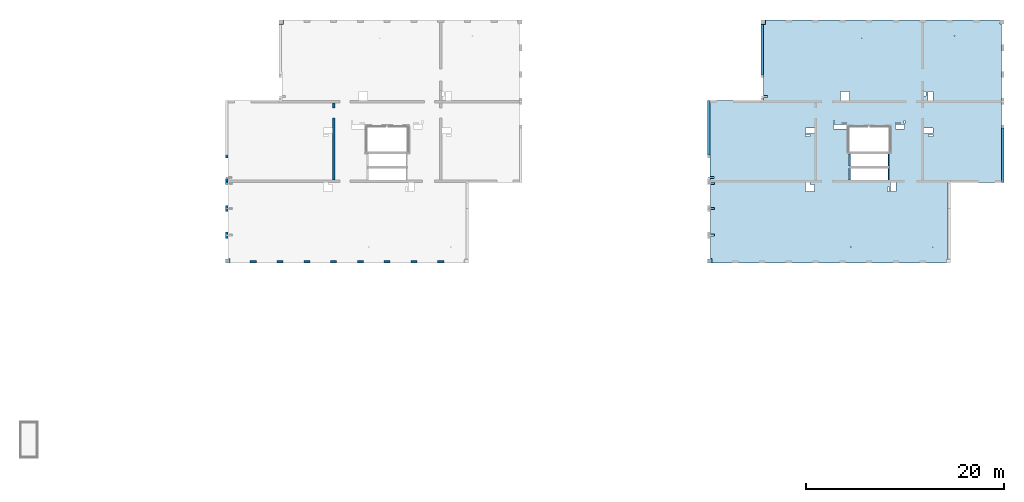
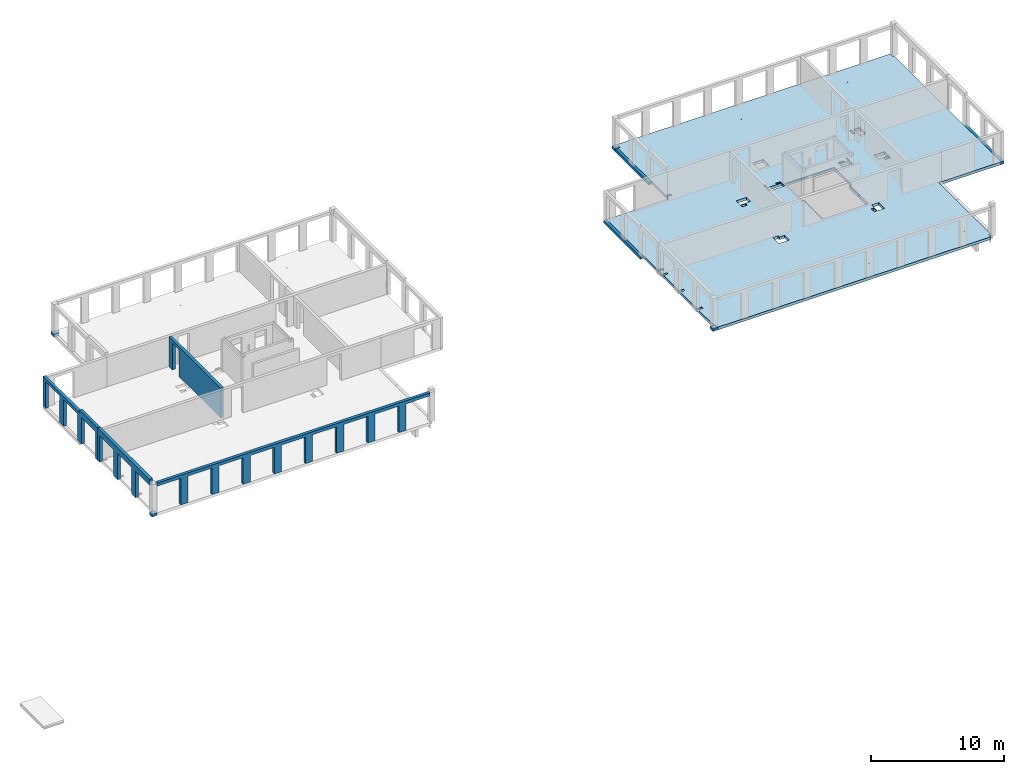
# One storey, part 3 of 12: 8 slabs, 4 walls, 50 openings.
"""IFC2X3 building model written with IfcOpenShell, lengths in millimetres."""

from ifc_helpers import new_model, entity, si_unit, converted_unit, derived_unit, direction, frame, frame_2d, origin, origin_2d_with_axis, place, context, subcontext, project, spatial, polyline, rectangle, circle, outline, extrude, material, layer, layer_set, layer_usage, type_object, element, save


model = new_model("IFC2X3")

# Units and contexts
model_context = context("Model", 3, precision=0.01, world=origin(), true_north=direction((6.12303176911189e-17, 1.0)))
body_context = subcontext(model_context, "Body", "Model", "MODEL_VIEW")
ifc_project = project(units=[si_unit("LENGTHUNIT", "METRE", prefix="MILLI"), si_unit("AREAUNIT", "SQUARE_METRE"), si_unit("VOLUMEUNIT", "CUBIC_METRE"), converted_unit("PLANEANGLEUNIT", "DEGREE", entity("IfcRatioMeasure", 0.0174532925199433), si_unit("PLANEANGLEUNIT", "RADIAN"), dimensions=[0, 0, 0, 0, 0, 0, 0]), si_unit("MASSUNIT", "GRAM", prefix="KILO"), derived_unit("MASSDENSITYUNIT", [(si_unit("MASSUNIT", "GRAM", prefix="KILO"), 1), (si_unit("LENGTHUNIT", "METRE"), -3)]), si_unit("TIMEUNIT", "SECOND"), si_unit("FREQUENCYUNIT", "HERTZ"), si_unit("THERMODYNAMICTEMPERATUREUNIT", "DEGREE_CELSIUS"), derived_unit("THERMALTRANSMITTANCEUNIT", [(si_unit("MASSUNIT", "GRAM", prefix="KILO"), 1), (si_unit("THERMODYNAMICTEMPERATUREUNIT", "KELVIN"), -1), (si_unit("TIMEUNIT", "SECOND"), -3)]), derived_unit("VOLUMETRICFLOWRATEUNIT", [(si_unit("LENGTHUNIT", "METRE"), 3), (si_unit("TIMEUNIT", "SECOND"), -1)]), si_unit("ELECTRICCURRENTUNIT", "AMPERE"), si_unit("ELECTRICVOLTAGEUNIT", "VOLT"), si_unit("POWERUNIT", "WATT"), si_unit("FORCEUNIT", "NEWTON", prefix="KILO"), si_unit("ILLUMINANCEUNIT", "LUX"), si_unit("LUMINOUSFLUXUNIT", "LUMEN"), si_unit("LUMINOUSINTENSITYUNIT", "CANDELA"), derived_unit("USERDEFINED", [(si_unit("MASSUNIT", "GRAM", prefix="KILO"), -1), (si_unit("LENGTHUNIT", "METRE"), -2), (si_unit("TIMEUNIT", "SECOND"), 3), (si_unit("LUMINOUSFLUXUNIT", "LUMEN"), 1)]), derived_unit("LINEARVELOCITYUNIT", [(si_unit("LENGTHUNIT", "METRE"), 1), (si_unit("TIMEUNIT", "SECOND"), -1)]), si_unit("PRESSUREUNIT", "PASCAL"), derived_unit("USERDEFINED", [(si_unit("LENGTHUNIT", "METRE"), -2), (si_unit("MASSUNIT", "GRAM", prefix="KILO"), 1), (si_unit("TIMEUNIT", "SECOND"), -2)])], contexts=[model_context])

# Site, building, storey
site_placement = place(None, origin())
site = spatial("IfcSite", under=ifc_project, at=site_placement, Name="Default", CompositionType="ELEMENT")
building_placement = place(site_placement, origin())
building = spatial("IfcBuilding", under=site, at=building_placement, Name="niet gebruiken", CompositionType="ELEMENT")
storey_placement = place(building_placement, frame((0.0, 0.0, 21510.0)))
storey = spatial("IfcBuildingStorey", under=building, at=storey_placement, Name="07 zevende verdieping", CompositionType="ELEMENT", Elevation=21510.0)

# Slab, openings
ifc_material_1 = material(Name="NLRS_f2_beton ihwg")
ifc_layer_1 = layer(ifc_material_1, 250.0)
ifc_layer_set_1 = layer_set([ifc_layer_1], Name="Floor:NLRS_23.21_FL_beton ihwg d=250_gen")
ifc_layer_usage_1 = layer_usage(ifc_layer_set_1, "AXIS3", "POSITIVE", 0.0)
slab_1_placement = place(storey_placement, frame((75500.0, 28756.0, -340.0)))
slab_1 = element("IfcSlab", 1, at=slab_1_placement, inside=storey, material=ifc_layer_usage_1, Name="Floor:NLRS_23.21_FL_beton ihwg d=250_gen", ObjectType="Floor:NLRS_23.21_FL_beton ihwg d=250_gen", PredefinedType="FLOOR", context=body_context, shape_type="SweptSolid", body=[
    extrude(outline(polyline([(8994.99996701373, 12250.0), (-14665.0, 12250.0), (-14665.0, 11840.0), (-14805.0, 11840.0), (-14805.0, 4060.0), (-14825.0, 4060.0), (-14825.0, -4150.0), (-9425.0, -4150.0), (-9425.0, -11890.0), (-9265.00003298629, -11890.0), (-9265.00003298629, -12250.0), (14395.0, -12250.0), (14395.0, -11820.0), (14535.0, -11820.0), (14535.0, -4060.0), (14555.0, -4060.0), (14555.0, -1350.0), (14825.0, -1350.0), (14825.0, 4150.0), (9155.0, 4150.0), (9155.0, 7060.0), (9175.0, 7060.0), (9175.0, 11820.0), (8994.99996701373, 11820.0), (8994.99996701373, 12250.0)])), frame((14825.0, 12250.0, 250.0), z_axis=(0.0, 0.0, -1.0), x_axis=(-1.0, 0.0, 0.0)), (0.0, 0.0, 1.0), 249.999999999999),
])
opening_1_placement = place(storey_placement, frame((75500.0, 28756.0, -340.0)))
element("IfcOpeningElement", 2, at=opening_1_placement, cuts=slab_1, ObjectType="Opening", context=body_context, shape_type="SweptSolid", body=[
    extrude(circle(Radius=37.5, at=frame_2d((-7875.0, -10650.0), x_axis=(1.0, 0.0))), frame((14825.0, 12250.0, 250.0), z_axis=(0.0, 0.0, -1.0), x_axis=(-1.0, 0.0, 0.0)), (0.0, 0.0, 1.0), 249.999999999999),
])
opening_2_placement = place(storey_placement, frame((75500.0, 28756.0, -340.0)))
element("IfcOpeningElement", 3, at=opening_2_placement, cuts=slab_1, ObjectType="Opening", context=body_context, shape_type="SweptSolid", body=[
    extrude(circle(Radius=37.5, at=frame_2d((-10075.0, 10650.0), x_axis=(1.0, 0.0))), frame((14825.0, 12250.0, 250.0), z_axis=(0.0, 0.0, -1.0), x_axis=(-1.0, 0.0, 0.0)), (0.0, 0.0, 1.0), 249.999999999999),
])
opening_3_placement = place(storey_placement, frame((75500.0, 28756.0, -340.0)))
element("IfcOpeningElement", 4, at=opening_3_placement, cuts=slab_1, ObjectType="Opening", context=body_context, shape_type="SweptSolid", body=[
    extrude(circle(Radius=37.5, at=frame_2d((-725.0, 10400.0), x_axis=(1.0, 0.0))), frame((14825.0, 12250.0, 250.0), z_axis=(0.0, 0.0, -1.0), x_axis=(-1.0, 0.0, 0.0)), (0.0, 0.0, 1.0), 249.999999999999),
])
opening_4_placement = place(storey_placement, frame((75500.0, 28756.0, -340.0)))
element("IfcOpeningElement", 5, at=opening_4_placement, cuts=slab_1, ObjectType="Opening", context=body_context, shape_type="SweptSolid", body=[
    extrude(circle(Radius=37.5, at=frame_2d((375.0, -10650.0), x_axis=(1.0, 0.0))), frame((14825.0, 12250.0, 250.0), z_axis=(0.0, 0.0, -1.0), x_axis=(-1.0, 0.0, 0.0)), (0.0, 0.0, 1.0), 249.999999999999),
])
opening_5_placement = place(slab_1_placement, origin())
element("IfcOpeningElement", 6, at=opening_5_placement, cuts=slab_1, ObjectType="Opening", context=body_context, shape_type="SweptSolid", body=[
    extrude(rectangle(XDim=109.999999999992, YDim=1220.0, at=origin_2d_with_axis()), frame((14344.9999671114, 10380.0, 210.0)), (0.0, 0.0, 1.0), 39.9999999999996),
])
opening_6_placement = place(slab_1_placement, origin())
element("IfcOpeningElement", 7, at=opening_6_placement, cuts=slab_1, ObjectType="Opening", context=body_context, shape_type="SweptSolid", body=[
    extrude(rectangle(XDim=109.999999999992, YDim=1220.0, at=origin_2d_with_axis()), frame((18255.0, 10380.0, 210.0)), (0.0, 0.0, 1.0), 39.9999999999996),
])
opening_7_placement = place(slab_1_placement, origin())
element("IfcOpeningElement", 8, at=opening_7_placement, cuts=slab_1, ObjectType="Opening", context=body_context, shape_type="SweptSolid", body=[
    extrude(rectangle(XDim=109.999999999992, YDim=1220.0, at=origin_2d_with_axis()), frame((18255.0, 8960.0, 210.0)), (0.0, 0.0, 1.0), 39.9999999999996),
])
opening_8_placement = place(slab_1_placement, origin())
element("IfcOpeningElement", 9, at=opening_8_placement, cuts=slab_1, ObjectType="Opening", context=body_context, shape_type="SweptSolid", body=[
    extrude(rectangle(XDim=109.999999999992, YDim=1220.0, at=origin_2d_with_axis()), frame((14344.9997832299, 8960.0, 210.0)), (0.0, 0.0, 1.0), 39.9999999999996),
])
opening_9_placement = place(slab_1_placement, origin())
element("IfcOpeningElement", 10, at=opening_9_placement, cuts=slab_1, ObjectType="Opening", context=body_context, shape_type="SweptSolid", body=[
    extrude(rectangle(XDim=200.000000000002, YDim=400.000000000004, at=origin_2d_with_axis()), frame((490.0, 2800.0, 220.0), z_axis=(0.0, 0.0, 1.0), x_axis=(0.0, -1.0, 0.0)), (0.0, 0.0, 1.0), 30.0000000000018),
])
opening_10_placement = place(slab_1_placement, origin())
element("IfcOpeningElement", 11, at=opening_10_placement, cuts=slab_1, ObjectType="Opening", context=body_context, shape_type="SweptSolid", body=[
    extrude(rectangle(XDim=200.000000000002, YDim=400.000000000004, at=origin_2d_with_axis()), frame((490.0, 5500.0, 220.0), z_axis=(0.0, 0.0, 1.0), x_axis=(0.0, -1.0, 0.0)), (0.0, 0.0, 1.0), 30.0000000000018),
])
opening_11_placement = place(slab_1_placement, origin())
element("IfcOpeningElement", 12, at=opening_11_placement, cuts=slab_1, ObjectType="Opening", context=body_context, shape_type="SweptSolid", body=[
    extrude(rectangle(XDim=200.000000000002, YDim=400.000000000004, at=origin_2d_with_axis()), frame((490.0, 8000.0, 220.0), z_axis=(0.0, 0.0, 1.0), x_axis=(0.0, -1.0, 0.0)), (0.0, 0.0, 1.0), 30.0000000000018),
])
opening_12_placement = place(slab_1_placement, origin())
element("IfcOpeningElement", 13, at=opening_12_placement, cuts=slab_1, ObjectType="Opening", context=body_context, shape_type="SweptSolid", body=[
    extrude(rectangle(XDim=400.000000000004, YDim=200.000000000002, at=origin_2d_with_axis()), frame((470.0, 8630.0, 220.0)), (0.0, 0.0, 1.0), 30.0000000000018),
])
opening_13_placement = place(slab_1_placement, origin())
element("IfcOpeningElement", 14, at=opening_13_placement, cuts=slab_1, ObjectType="Opening", context=body_context, shape_type="SweptSolid", body=[
    extrude(rectangle(XDim=399.999999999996, YDim=199.999999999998, at=origin_2d_with_axis()), frame((5870.0, 16765.0, 220.0)), (0.0, 0.0, 1.0), 30.0000000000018),
])
opening_14_placement = place(slab_1_placement, origin())
element("IfcOpeningElement", 15, at=opening_14_placement, cuts=slab_1, ObjectType="Opening", context=body_context, shape_type="SweptSolid", body=[
    extrude(rectangle(XDim=900.000000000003, YDim=700.000000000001, at=origin_2d_with_axis()), frame((10325.0, 7550.0, 0.0), z_axis=(0.0, 0.0, 1.0), x_axis=(-1.0, 0.0, 0.0)), (0.0, 0.0, 1.0), 249.999999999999),
])
opening_15_placement = place(slab_1_placement, origin())
element("IfcOpeningElement", 16, at=opening_15_placement, cuts=slab_1, ObjectType="Opening", context=body_context, shape_type="SweptSolid", body=[
    extrude(rectangle(XDim=200.000000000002, YDim=450.000000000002, at=origin_2d_with_axis()), frame((10100.0, 8000.0, 0.0), z_axis=(0.0, 0.0, 1.0), x_axis=(0.0, -1.0, 0.0)), (0.0, 0.0, 1.0), 249.999999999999),
])
opening_16_placement = place(slab_1_placement, origin())
element("IfcOpeningElement", 17, at=opening_16_placement, cuts=slab_1, ObjectType="Opening", context=body_context, shape_type="SweptSolid", body=[
    extrude(rectangle(XDim=450.000000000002, YDim=900.000000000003, at=origin_2d_with_axis()), frame((19430.0, 13720.0, 0.0), z_axis=(0.0, 0.0, 1.0), x_axis=(0.0, -1.0, 0.0)), (0.0, 0.0, 1.0), 249.999999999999),
])
opening_17_placement = place(slab_1_placement, origin())
element("IfcOpeningElement", 18, at=opening_17_placement, cuts=slab_1, ObjectType="Opening", context=body_context, shape_type="SweptSolid", body=[
    extrude(rectangle(XDim=900.000000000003, YDim=900.000000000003, at=origin_2d_with_axis()), frame((13885.0, 16850.0, 0.0), z_axis=(0.0, 0.0, 1.0), x_axis=(-1.0, 0.0, 0.0)), (0.0, 0.0, 1.0), 249.999999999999),
])
opening_18_placement = place(slab_1_placement, origin())
element("IfcOpeningElement", 19, at=opening_18_placement, cuts=slab_1, ObjectType="Opening", context=body_context, shape_type="SweptSolid", body=[
    extrude(rectangle(XDim=900.000000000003, YDim=600.000000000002, at=origin_2d_with_axis()), frame((10325.0, 13330.0, 0.0), z_axis=(0.0, 0.0, 1.0), x_axis=(-1.0, 0.0, 0.0)), (0.0, 0.0, 1.0), 249.999999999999),
])
opening_19_placement = place(slab_1_placement, origin())
element("IfcOpeningElement", 20, at=opening_19_placement, cuts=slab_1, ObjectType="Opening", context=body_context, shape_type="SweptSolid", body=[
    extrude(rectangle(XDim=900.000000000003, YDim=500.000000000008, at=origin_2d_with_axis()), frame((22475.0, 16850.0, 0.0), z_axis=(0.0, 0.0, 1.0), x_axis=(0.0, 1.0, 0.0)), (0.0, 0.0, 1.0), 249.999999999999),
])
opening_20_placement = place(slab_1_placement, origin())
element("IfcOpeningElement", 21, at=opening_20_placement, cuts=slab_1, ObjectType="Opening", context=body_context, shape_type="SweptSolid", body=[
    extrude(rectangle(XDim=899.999999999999, YDim=600.000000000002, at=origin_2d_with_axis()), frame((18729.9818996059, 7650.0, 0.0), z_axis=(0.0, 0.0, 1.0), x_axis=(0.0, 1.0, 0.0)), (0.0, 0.0, 1.0), 249.999999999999),
])
opening_21_placement = place(slab_1_placement, origin())
element("IfcOpeningElement", 22, at=opening_21_placement, cuts=slab_1, ObjectType="Opening", context=body_context, shape_type="SweptSolid", body=[
    extrude(rectangle(XDim=1760.0, YDim=23.0000000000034, at=origin_2d_with_axis()), frame((17354.9998491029, 13751.5, 180.0)), (0.0, 0.0, 1.0), 39.9999999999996),
])
opening_22_placement = place(slab_1_placement, origin())
element("IfcOpeningElement", 23, at=opening_22_placement, cuts=slab_1, ObjectType="Opening", context=body_context, shape_type="SweptSolid", body=[
    extrude(rectangle(XDim=1760.00000000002, YDim=23.0000000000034, at=origin_2d_with_axis()), frame((15244.9998491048, 13751.5, 180.0)), (0.0, 0.0, 1.0), 39.9999999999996),
])
opening_23_placement = place(slab_1_placement, origin())
element("IfcOpeningElement", 24, at=opening_23_placement, cuts=slab_1, ObjectType="Opening", context=body_context, shape_type="SweptSolid", body=[
    extrude(rectangle(XDim=100.000000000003, YDim=489.999999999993, at=origin_2d_with_axis()), frame((19225.0, 14090.0, 0.0), z_axis=(0.0, 0.0, 1.0), x_axis=(0.0, -1.0, 0.0)), (0.0, 0.0, 1.0), 249.999999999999),
])
opening_24_placement = place(slab_1_placement, origin())
element("IfcOpeningElement", 25, at=opening_24_placement, cuts=slab_1, ObjectType="Opening", context=body_context, shape_type="SweptSolid", body=[
    extrude(rectangle(XDim=99.9999999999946, YDim=340.000000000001, at=origin_2d_with_axis()), frame((19865.0, 14210.0, 0.0), z_axis=(0.0, 0.0, 1.0), x_axis=(-1.0, 0.0, 0.0)), (0.0, 0.0, 1.0), 249.999999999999),
])
opening_25_placement = place(slab_1_placement, origin())
element("IfcOpeningElement", 26, at=opening_25_placement, cuts=slab_1, ObjectType="Opening", context=body_context, shape_type="SweptSolid", body=[
    extrude(rectangle(XDim=100.000000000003, YDim=440.000000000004, at=origin_2d_with_axis()), frame((13805.0, 14090.0, 0.0), z_axis=(0.0, 0.0, 1.0), x_axis=(0.0, -1.0, 0.0)), (0.0, 0.0, 1.0), 249.999999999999),
])
opening_26_placement = place(slab_1_placement, origin())
element("IfcOpeningElement", 27, at=opening_26_placement, cuts=slab_1, ObjectType="Opening", context=body_context, shape_type="SweptSolid", body=[
    extrude(rectangle(XDim=99.9999999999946, YDim=340.000000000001, at=origin_2d_with_axis()), frame((12755.0, 14210.0, 0.0), z_axis=(0.0, 0.0, 1.0), x_axis=(-1.0, 0.0, 0.0)), (0.0, 0.0, 1.0), 249.999999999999),
])
opening_27_placement = place(slab_1_placement, origin())
element("IfcOpeningElement", 28, at=opening_27_placement, cuts=slab_1, ObjectType="Opening", context=body_context, shape_type="SweptSolid", body=[
    extrude(rectangle(XDim=220.000000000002, YDim=450.000000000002, at=origin_2d_with_axis()), frame((21935.0, 17075.0, 0.0), z_axis=(0.0, 0.0, 1.0), x_axis=(-1.0, 0.0, 0.0)), (0.0, 0.0, 1.0), 249.999999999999),
])
opening_28_placement = place(slab_1_placement, origin())
element("IfcOpeningElement", 29, at=opening_28_placement, cuts=slab_1, ObjectType="Opening", context=body_context, shape_type="SweptSolid", body=[
    extrude(rectangle(XDim=230.0, YDim=450.000000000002, at=origin_2d_with_axis()), frame((10100.0000865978, 12845.0002270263, 0.0), z_axis=(0.0, 0.0, 1.0), x_axis=(0.0, -1.0, 0.0)), (0.0, 0.0, 1.0), 249.999999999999),
])
opening_29_placement = place(slab_1_placement, origin())
element("IfcOpeningElement", 30, at=opening_29_placement, cuts=slab_1, ObjectType="Opening", context=body_context, shape_type="SweptSolid", body=[
    extrude(rectangle(XDim=220.000000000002, YDim=450.000000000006, at=origin_2d_with_axis()), frame((18240.0, 7425.0, 0.0)), (0.0, 0.0, 1.0), 249.999999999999),
])
opening_30_placement = place(slab_1_placement, origin())
element("IfcOpeningElement", 31, at=opening_30_placement, cuts=slab_1, ObjectType="Opening", context=body_context, shape_type="SweptSolid", body=[
    extrude(rectangle(XDim=440.000000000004, YDim=1320.00000000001, at=origin_2d_with_axis()), frame((13365.0, 13720.0, 0.0), z_axis=(0.0, 0.0, 1.0), x_axis=(0.0, -1.0, 0.0)), (0.0, 0.0, 1.0), 249.999999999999),
])
opening_31_placement = place(slab_1_placement, origin())
element("IfcOpeningElement", 32, at=opening_31_placement, cuts=slab_1, ObjectType="Opening", context=body_context, shape_type="SweptSolid", body=[
    extrude(rectangle(XDim=900.000000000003, YDim=600.000000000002, at=origin_2d_with_axis()), frame((22275.0, 13330.0, 0.0), z_axis=(0.0, 0.0, 1.0), x_axis=(-1.0, 0.0, 0.0)), (0.0, 0.0, 1.0), 249.999999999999),
])
opening_32_placement = place(slab_1_placement, origin())
element("IfcOpeningElement", 33, at=opening_32_placement, cuts=slab_1, ObjectType="Opening", context=body_context, shape_type="SweptSolid", body=[
    extrude(rectangle(XDim=220.000000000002, YDim=450.000000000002, at=origin_2d_with_axis()), frame((22500.0, 12840.0, 0.0), z_axis=(0.0, 0.0, 1.0), x_axis=(0.0, -1.0, 0.0)), (0.0, 0.0, 1.0), 249.999999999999),
])
opening_33_placement = place(slab_1_placement, frame((16300.0, 10378.75, 250.0)))
element("IfcOpeningElement", 34, at=opening_33_placement, cuts=slab_1, Name="Floor:NLRS_23.21_FL_beton ihwg d=250_gen:2", ObjectType="Opening", context=body_context, shape_type="SweptSolid", body=[
    extrude(outline(polyline([(-3361.25000000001, -2135.00001644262), (-751.250000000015, -2135.00001644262), (-751.250000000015, -1899.99998355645), (608.750000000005, -1899.99998355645), (608.750000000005, -2000.00001644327), (808.750000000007, -2000.00001644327), (808.750000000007, -1899.99998355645), (2028.75, -1899.99998355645), (2028.75, 1900.00001644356), (808.749999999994, 1900.00001644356), (808.749999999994, 1999.99998355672), (608.749999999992, 1999.99998355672), (608.749999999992, 1900.00001644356), (-751.250000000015, 1900.00001644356), (-751.250000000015, 2134.99998355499), (-3361.25000000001, 2134.99998355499), (-3361.25000000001, -2135.00001644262)])), frame((0.0, 0.0, 0.0), z_axis=(0.0, 0.0, -1.0), x_axis=(0.0, -1.0, 0.0)), (0.0, 0.0, 1.0), 249.999999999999),
])

# Slabs
ifc_layer_usage_2 = layer_usage(ifc_layer_set_1, "AXIS3", "POSITIVE", 0.0)
slab_2_placement = place(storey_placement, origin())
element("IfcSlab", 35, at=slab_2_placement, inside=storey, material=ifc_layer_usage_2, Name="Floor:NLRS_23.21_FL_beton ihwg d=250_gen", ObjectType="Floor:NLRS_23.21_FL_beton ihwg d=250_gen", PredefinedType="FLOOR", context=body_context, shape_type="SweptSolid", body=[
    extrude(rectangle(XDim=5089.99999999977, YDim=249.999999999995, at=frame_2d((-4.32009983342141e-12, -8.66151594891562e-12), x_axis=(1.0, 0.0))), frame((81025.0, 50301.0, -90.0), z_axis=(0.0, 0.0, -1.0), x_axis=(0.0, 1.0, 0.0)), (0.0, 0.0, 1.0), 249.999999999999),
])
ifc_layer_usage_3 = layer_usage(ifc_layer_set_1, "AXIS3", "POSITIVE", 0.0)
slab_3_placement = place(storey_placement, origin())
element("IfcSlab", 36, at=slab_3_placement, inside=storey, material=ifc_layer_usage_3, Name="Floor:NLRS_23.21_FL_beton ihwg d=250_gen", ObjectType="Floor:NLRS_23.21_FL_beton ihwg d=250_gen", PredefinedType="FLOOR", context=body_context, shape_type="SweptSolid", body=[
    extrude(rectangle(XDim=5499.99999999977, YDim=250.000000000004, at=frame_2d((0.0, 4.33431068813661e-12), x_axis=(1.0, 0.0))), frame((75625.0, 42406.0, -90.0), z_axis=(0.0, 0.0, -1.0), x_axis=(0.0, 1.0, 0.0)), (0.0, 0.0, 1.0), 249.999999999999),
])
ifc_layer_usage_4 = layer_usage(ifc_layer_set_1, "AXIS3", "POSITIVE", 0.0)
slab_4_placement = place(storey_placement, origin())
element("IfcSlab", 37, at=slab_4_placement, inside=storey, material=ifc_layer_usage_4, Name="Floor:NLRS_23.21_FL_beton ihwg d=250_gen", ObjectType="Floor:NLRS_23.21_FL_beton ihwg d=250_gen", PredefinedType="FLOOR", context=body_context, shape_type="SweptSolid", body=[
    extrude(rectangle(XDim=5500.00000000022, YDim=249.999999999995, at=frame_2d((0.0, -8.66151594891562e-12), x_axis=(1.0, 0.0))), frame((105275.0, 39606.0, -90.0), z_axis=(0.0, 0.0, -1.0), x_axis=(0.0, 1.0, 0.0)), (0.0, 0.0, 1.0), 249.999999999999),
])
ifc_layer_usage_5 = layer_usage(ifc_layer_set_1, "AXIS3", "POSITIVE", 0.0)
slab_5_placement = place(storey_placement, origin())
element("IfcSlab", 38, at=slab_5_placement, inside=storey, material=ifc_layer_usage_5, Name="Floor:NLRS_23.21_FL_beton ihwg d=250_gen", ObjectType="Floor:NLRS_23.21_FL_beton ihwg d=250_gen", PredefinedType="FLOOR", context=body_context, shape_type="SweptSolid", body=[
    extrude(outline(polyline([(-280.0, -240.0), (130.0, -240.0), (130.0, 50.0), (150.0, 50.0), (150.0, 190.0), (-280.0, 190.0), (-280.0, -240.0)])), frame((75740.0, 29036.0, -90.0), z_axis=(0.0, 0.0, -1.0), x_axis=(0.0, 1.0, 0.0)), (0.0, 0.0, 1.0), 249.999999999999),
])
ifc_layer_usage_6 = layer_usage(ifc_layer_set_1, "AXIS3", "POSITIVE", 0.0)
slab_6_placement = place(storey_placement, origin())
element("IfcSlab", 39, at=slab_6_placement, inside=storey, material=ifc_layer_usage_6, Name="Floor:NLRS_23.21_FL_beton ihwg d=250_gen", ObjectType="Floor:NLRS_23.21_FL_beton ihwg d=250_gen", PredefinedType="FLOOR", context=body_context, shape_type="SweptSolid", body=[
    extrude(outline(polyline([(-280.0, -240.0), (130.0, -240.0), (130.0, 50.0), (150.0, 50.0), (150.0, 190.0), (-280.0, 190.0), (-280.0, -240.0)])), frame((27140.0, 29036.0, -90.0), z_axis=(0.0, 0.0, -1.0), x_axis=(0.0, 1.0, 0.0)), (0.0, 0.0, 1.0), 249.999999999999),
])
ifc_layer_usage_7 = layer_usage(ifc_layer_set_1, "AXIS3", "POSITIVE", 0.0)
slab_7_placement = place(storey_placement, origin())
element("IfcSlab", 40, at=slab_7_placement, inside=storey, material=ifc_layer_usage_7, Name="Floor:NLRS_23.21_FL_beton ihwg d=250_gen", ObjectType="Floor:NLRS_23.21_FL_beton ihwg d=250_gen", PredefinedType="FLOOR", context=body_context, shape_type="SweptSolid", body=[
    extrude(rectangle(XDim=430.000000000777, YDim=430.000032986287, at=frame_2d((4.33431068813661e-12, 0.0), x_axis=(1.0, 0.0))), frame((81115.0, 53041.0, -90.0), z_axis=(0.0, 0.0, -1.0), x_axis=(0.0, 1.0, 0.0)), (0.0, 0.0, 1.0), 249.999999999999),
])
ifc_layer_usage_8 = layer_usage(ifc_layer_set_1, "AXIS3", "POSITIVE", 0.0)
slab_8_placement = place(storey_placement, origin())
element("IfcSlab", 41, at=slab_8_placement, inside=storey, material=ifc_layer_usage_8, Name="Floor:NLRS_23.21_FL_beton ihwg d=250_gen", ObjectType="Floor:NLRS_23.21_FL_beton ihwg d=250_gen", PredefinedType="FLOOR", context=body_context, shape_type="SweptSolid", body=[
    extrude(rectangle(XDim=430.000000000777, YDim=430.000032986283, at=frame_2d((-4.33431068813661e-12, 2.1600499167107e-12), x_axis=(1.0, 0.0))), frame((32515.0, 53041.0, -90.0), z_axis=(0.0, 0.0, -1.0), x_axis=(0.0, 1.0, 0.0)), (0.0, 0.0, 1.0), 249.999999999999),
])

# Wall, opening
ifc_layer_2 = layer(ifc_material_1, 250.0)
ifc_layer_set_2 = layer_set([ifc_layer_2], Name="Basic Wall:NLRS_22.21_WA_beton ihwg d=250_gen")
ifc_layer_usage_9 = layer_usage(ifc_layer_set_2, "AXIS2", "NEGATIVE", 125.0)
wall_type_1 = type_object("IfcWallType", Name="Basic Wall:NLRS_22.21_WA_beton ihwg d=250_gen", PredefinedType="STANDARD", material=ifc_layer_set_2)
wall_1_placement = place(storey_placement, frame((37800.0, 44906.0, -90.0), z_axis=(0.0, 0.0, 1.0), x_axis=(0.0, -1.0, 0.0)))
wall_1 = element("IfcWallStandardCase", 42, at=wall_1_placement, inside=storey, type_object=wall_type_1, material=ifc_layer_usage_9, Name="Basic Wall:NLRS_22.21_WA_beton ihwg d=250_gen", ObjectType="Basic Wall:NLRS_22.21_WA_beton ihwg d=250_gen", context=body_context, shape_type="SweptSolid", body=[
    extrude(rectangle(XDim=7799.99999999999, YDim=250.000000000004, at=frame_2d((3900.0, 0.0), x_axis=(-1.0, 0.0))), origin(), (0.0, 0.0, 1.0), 2719.99999999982),
])
opening_34_placement = place(wall_1_placement, origin())
element("IfcOpeningElement", 43, at=opening_34_placement, cuts=wall_1, Name="Basic Wall:NLRS_22.21_WA_beton ihwg d=250_gen", ObjectType="Opening", context=body_context, shape_type="SweptSolid", body=[
    extrude(rectangle(XDim=2470.0, YDim=1006.0, at=origin_2d_with_axis()), frame((1027.0, -1649.0, 1235.0), z_axis=(0.0, 1.0, 0.0), x_axis=(0.0, 0.0, 1.0)), (0.0, 0.0, 1.0), 3048.0),
])

# Wall, openings
ifc_material_2 = material(Name="NLRS_f2_beton prefab")
ifc_layer_3 = layer(ifc_material_2, 250.0)
ifc_layer_set_3 = layer_set([ifc_layer_3], Name="Basic Wall:NLRS_21.21_WA_beton prefab d=250_gen")
ifc_layer_usage_10 = layer_usage(ifc_layer_set_3, "AXIS2", "NEGATIVE", 125.0)
wall_type_2 = type_object("IfcWallType", Name="Basic Wall:NLRS_21.21_WA_beton prefab d=250_gen", PredefinedType="STANDARD", material=ifc_layer_set_3)
wall_2_placement = place(storey_placement, frame((27025.0, 45156.0, -70.0), z_axis=(0.0, 0.0, 1.0), x_axis=(0.0, -1.0, 0.0)))
wall_2 = element("IfcWallStandardCase", 44, at=wall_2_placement, inside=storey, type_object=wall_type_2, material=ifc_layer_usage_10, Name="Basic Wall:NLRS_21.21_WA_beton prefab d=250_gen", ObjectType="Basic Wall:NLRS_21.21_WA_beton prefab d=250_gen", context=body_context, shape_type="SweptSolid", body=[
    extrude(rectangle(XDim=8189.99999999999, YDim=250.000000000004, at=frame_2d((4095.0, 0.0), x_axis=(-1.0, 0.0))), origin(), (0.0, 0.0, 1.0), 2949.99999999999),
])
opening_35_placement = place(wall_2_placement, origin())
element("IfcOpeningElement", 45, at=opening_35_placement, cuts=wall_2, Name="Basic Wall:NLRS_21.21_WA_beton prefab d=250_gen", ObjectType="Opening", context=body_context, shape_type="SweptSolid", body=[
    extrude(rectangle(XDim=2420.0, YDim=2080.0, at=frame_2d((0.0, 2.1600499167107e-12), x_axis=(0.0, 1.0))), frame((1450.0, -1399.0, 1210.0), z_axis=(0.0, 1.0, 0.0), x_axis=(-1.0, 0.0, 0.0)), (0.0, 0.0, 1.0), 3048.0),
])
opening_36_placement = place(wall_2_placement, origin())
element("IfcOpeningElement", 46, at=opening_36_placement, cuts=wall_2, Name="Basic Wall:NLRS_21.21_WA_beton prefab d=250_gen", ObjectType="Opening", context=body_context, shape_type="SweptSolid", body=[
    extrude(rectangle(XDim=2420.0, YDim=2080.0, at=frame_2d((0.0, 2.1600499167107e-12), x_axis=(0.0, 1.0))), frame((4150.0, -1399.0, 1210.0), z_axis=(0.0, 1.0, 0.0), x_axis=(-1.0, 0.0, 0.0)), (0.0, 0.0, 1.0), 3048.0),
])
opening_37_placement = place(wall_2_placement, origin())
element("IfcOpeningElement", 47, at=opening_37_placement, cuts=wall_2, Name="Basic Wall:NLRS_21.21_WA_beton prefab d=250_gen", ObjectType="Opening", context=body_context, shape_type="SweptSolid", body=[
    extrude(rectangle(XDim=2420.0, YDim=2080.0, at=frame_2d((0.0, 2.1600499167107e-12), x_axis=(0.0, 1.0))), frame((6850.0, -1399.0, 1210.0), z_axis=(0.0, 1.0, 0.0), x_axis=(-1.0, 0.0, 0.0)), (0.0, 0.0, 1.0), 3048.0),
])
opening_38_placement = place(wall_2_placement, origin())
element("IfcOpeningElement", 48, at=opening_38_placement, cuts=wall_2, Name="Basic Wall:NLRS_21.21_WA_beton prefab d=250_gen", ObjectType="Opening", context=body_context, shape_type="SweptSolid", body=[
    extrude(rectangle(XDim=250.000000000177, YDim=5499.99999999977, at=frame_2d((0.0, 0.0), x_axis=(0.0, 1.0))), frame((2750.0, 125.0, 2825.0), z_axis=(0.0, -1.0, 0.0), x_axis=(-1.0, 0.0, 0.0)), (0.0, 0.0, 1.0), 250.0),
])

ifc_layer_4 = layer(ifc_material_1, 250.0)
ifc_layer_set_4 = layer_set([ifc_layer_4], Name="Basic Wall:NLRS_21.21_WA_beton ihwg d=250_gen")
ifc_layer_usage_11 = layer_usage(ifc_layer_set_4, "AXIS2", "NEGATIVE", 125.0)
wall_type_3 = type_object("IfcWallType", Name="Basic Wall:NLRS_21.21_WA_beton ihwg d=250_gen", PredefinedType="STANDARD", material=ifc_layer_set_4)
wall_3_placement = place(storey_placement, frame((27330.0, 28881.0, -90.0)))
wall_3 = element("IfcWallStandardCase", 49, at=wall_3_placement, inside=storey, type_object=wall_type_3, material=ifc_layer_usage_11, Name="Basic Wall:NLRS_21.21_WA_beton ihwg d=250_gen", ObjectType="Basic Wall:NLRS_21.21_WA_beton ihwg d=250_gen", context=body_context, shape_type="SweptSolid", body=[
    extrude(rectangle(XDim=23640.0000000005, YDim=250.000000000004, at=frame_2d((11820.0000000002, -8.66862137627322e-13), x_axis=(-1.0, 0.0))), origin(), (0.0, 0.0, 1.0), 2720.00000000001),
])
opening_39_placement = place(wall_3_placement, origin())
element("IfcOpeningElement", 50, at=opening_39_placement, cuts=wall_3, Name="Basic Wall:NLRS_21.21_WA_beton ihwg d=250_gen", ObjectType="Opening", context=body_context, shape_type="SweptSolid", body=[
    extrude(rectangle(XDim=2440.0, YDim=2080.0, at=frame_2d((0.0, 0.0), x_axis=(0.0, 1.0))), frame((22620.0, -1399.0, 1220.0), z_axis=(0.0, 1.0, 0.0), x_axis=(-1.0, 0.0, 0.0)), (0.0, 0.0, 1.0), 3048.0),
])
opening_40_placement = place(wall_3_placement, origin())
element("IfcOpeningElement", 51, at=opening_40_placement, cuts=wall_3, Name="Basic Wall:NLRS_21.21_WA_beton ihwg d=250_gen", ObjectType="Opening", context=body_context, shape_type="SweptSolid", body=[
    extrude(rectangle(XDim=2440.0, YDim=2080.0, at=frame_2d((0.0, -2.1600499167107e-12), x_axis=(0.0, 1.0))), frame((19920.0, -1399.0, 1220.0), z_axis=(0.0, 1.0, 0.0), x_axis=(-1.0, 0.0, 0.0)), (0.0, 0.0, 1.0), 3048.0),
])
opening_41_placement = place(wall_3_placement, origin())
element("IfcOpeningElement", 52, at=opening_41_placement, cuts=wall_3, Name="Basic Wall:NLRS_21.21_WA_beton ihwg d=250_gen", ObjectType="Opening", context=body_context, shape_type="SweptSolid", body=[
    extrude(rectangle(XDim=2440.0, YDim=2080.0, at=frame_2d((0.0, 0.0), x_axis=(0.0, 1.0))), frame((17220.0, -1399.0, 1220.0), z_axis=(0.0, 1.0, 0.0), x_axis=(-1.0, 0.0, 0.0)), (0.0, 0.0, 1.0), 3048.0),
])
opening_42_placement = place(wall_3_placement, origin())
element("IfcOpeningElement", 53, at=opening_42_placement, cuts=wall_3, Name="Basic Wall:NLRS_21.21_WA_beton ihwg d=250_gen", ObjectType="Opening", context=body_context, shape_type="SweptSolid", body=[
    extrude(rectangle(XDim=2440.0, YDim=2080.0, at=frame_2d((0.0, -2.1600499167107e-12), x_axis=(0.0, 1.0))), frame((14520.0, -1399.0, 1220.0), z_axis=(0.0, 1.0, 0.0), x_axis=(-1.0, 0.0, 0.0)), (0.0, 0.0, 1.0), 3048.0),
])
opening_43_placement = place(wall_3_placement, origin())
element("IfcOpeningElement", 54, at=opening_43_placement, cuts=wall_3, Name="Basic Wall:NLRS_21.21_WA_beton ihwg d=250_gen", ObjectType="Opening", context=body_context, shape_type="SweptSolid", body=[
    extrude(rectangle(XDim=2440.0, YDim=2080.0, at=frame_2d((4.32009983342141e-12, 0.0), x_axis=(0.0, 1.0))), frame((11820.0, -1399.0, 1220.0), z_axis=(0.0, 1.0, 0.0), x_axis=(-1.0, 0.0, 0.0)), (0.0, 0.0, 1.0), 3048.0),
])
opening_44_placement = place(wall_3_placement, origin())
element("IfcOpeningElement", 55, at=opening_44_placement, cuts=wall_3, Name="Basic Wall:NLRS_21.21_WA_beton ihwg d=250_gen", ObjectType="Opening", context=body_context, shape_type="SweptSolid", body=[
    extrude(rectangle(XDim=2440.0, YDim=2080.0, at=frame_2d((-2.1600499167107e-12, -2.1600499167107e-12), x_axis=(0.0, 1.0))), frame((9120.0, -1399.0, 1220.0), z_axis=(0.0, 1.0, 0.0), x_axis=(-1.0, 0.0, 0.0)), (0.0, 0.0, 1.0), 3048.0),
])
opening_45_placement = place(wall_3_placement, origin())
element("IfcOpeningElement", 56, at=opening_45_placement, cuts=wall_3, Name="Basic Wall:NLRS_21.21_WA_beton ihwg d=250_gen", ObjectType="Opening", context=body_context, shape_type="SweptSolid", body=[
    extrude(rectangle(XDim=2440.0, YDim=2080.0, at=frame_2d((-2.1600499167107e-12, 0.0), x_axis=(0.0, 1.0))), frame((6420.0, -1399.0, 1220.0), z_axis=(0.0, 1.0, 0.0), x_axis=(-1.0, 0.0, 0.0)), (0.0, 0.0, 1.0), 3048.0),
])
opening_46_placement = place(wall_3_placement, origin())
element("IfcOpeningElement", 57, at=opening_46_placement, cuts=wall_3, Name="Basic Wall:NLRS_21.21_WA_beton ihwg d=250_gen", ObjectType="Opening", context=body_context, shape_type="SweptSolid", body=[
    extrude(rectangle(XDim=2440.0, YDim=2080.0, at=frame_2d((-2.1600499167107e-12, -2.1600499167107e-12), x_axis=(0.0, 1.0))), frame((3720.0, -1399.0, 1220.0), z_axis=(0.0, 1.0, 0.0), x_axis=(-1.0, 0.0, 0.0)), (0.0, 0.0, 1.0), 3048.0),
])
opening_47_placement = place(wall_3_placement, origin())
element("IfcOpeningElement", 58, at=opening_47_placement, cuts=wall_3, Name="Basic Wall:NLRS_21.21_WA_beton ihwg d=250_gen", ObjectType="Opening", context=body_context, shape_type="SweptSolid", body=[
    extrude(rectangle(XDim=2440.0, YDim=2080.0, at=frame_2d((-2.1600499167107e-12, 0.0), x_axis=(0.0, 1.0))), frame((1020.0, -1399.0, 1220.0), z_axis=(0.0, 1.0, 0.0), x_axis=(-1.0, 0.0, 0.0)), (0.0, 0.0, 1.0), 3048.0),
])

ifc_layer_5 = layer(ifc_material_2, 270.0)
ifc_layer_set_5 = layer_set([ifc_layer_5], Name="Basic Wall:NLRS_21.21_WA_beton prefab d=270_gen")
ifc_layer_usage_12 = layer_usage(ifc_layer_set_5, "AXIS2", "NEGATIVE", 135.0)
wall_type_4 = type_object("IfcWallType", Name="Basic Wall:NLRS_21.21_WA_beton prefab d=270_gen", PredefinedType="STANDARD", material=ifc_layer_set_5)
wall_4_placement = place(storey_placement, frame((27035.0, 36946.0, -70.0), z_axis=(0.0, 0.0, 1.0), x_axis=(0.0, -1.0, 0.0)))
wall_4 = element("IfcWallStandardCase", 59, at=wall_4_placement, inside=storey, type_object=wall_type_4, material=ifc_layer_usage_12, Name="Basic Wall:NLRS_21.21_WA_beton prefab d=270_gen", ObjectType="Basic Wall:NLRS_21.21_WA_beton prefab d=270_gen", context=body_context, shape_type="SweptSolid", body=[
    extrude(rectangle(XDim=7779.99999999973, YDim=269.999999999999, at=frame_2d((3889.99999999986, 0.0), x_axis=(-1.0, 0.0))), origin(), (0.0, 0.0, 1.0), 2949.99999999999),
])
opening_48_placement = place(wall_4_placement, origin())
element("IfcOpeningElement", 60, at=opening_48_placement, cuts=wall_4, Name="Basic Wall:NLRS_21.21_WA_beton prefab d=270_gen", ObjectType="Opening", context=body_context, shape_type="SweptSolid", body=[
    extrude(rectangle(XDim=2420.0, YDim=2080.0, at=frame_2d((-2.1600499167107e-12, 2.1600499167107e-12), x_axis=(0.0, 1.0))), frame((1340.0, -1389.0, 1210.0), z_axis=(0.0, 1.0, 0.0), x_axis=(-1.0, 0.0, 0.0)), (0.0, 0.0, 1.0), 3048.0),
])
opening_49_placement = place(wall_4_placement, origin())
element("IfcOpeningElement", 61, at=opening_49_placement, cuts=wall_4, Name="Basic Wall:NLRS_21.21_WA_beton prefab d=270_gen", ObjectType="Opening", context=body_context, shape_type="SweptSolid", body=[
    extrude(rectangle(XDim=2420.0, YDim=2080.0, at=frame_2d((2.1600499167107e-12, 2.1600499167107e-12), x_axis=(0.0, 1.0))), frame((4040.0, -1389.0, 1210.0), z_axis=(0.0, 1.0, 0.0), x_axis=(-1.0, 0.0, 0.0)), (0.0, 0.0, 1.0), 3048.0),
])
opening_50_placement = place(wall_4_placement, origin())
element("IfcOpeningElement", 62, at=opening_50_placement, cuts=wall_4, Name="Basic Wall:NLRS_21.21_WA_beton prefab d=270_gen", ObjectType="Opening", context=body_context, shape_type="SweptSolid", body=[
    extrude(rectangle(XDim=2420.0, YDim=2080.0, at=frame_2d((2.1600499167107e-12, 2.1600499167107e-12), x_axis=(0.0, 1.0))), frame((6740.0, -1389.0, 1210.0), z_axis=(0.0, 1.0, 0.0), x_axis=(-1.0, 0.0, 0.0)), (0.0, 0.0, 1.0), 3048.0),
])

save(model, "model.ifc")
